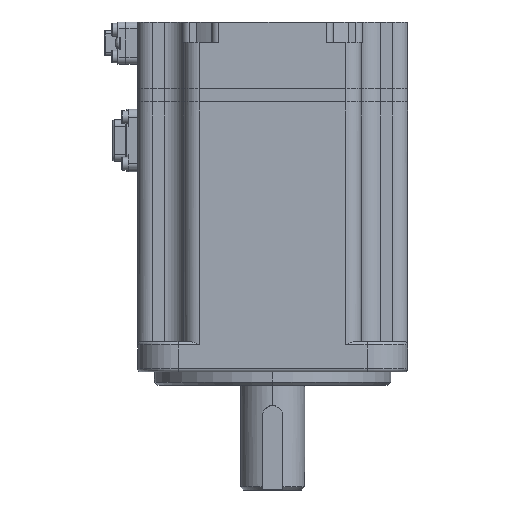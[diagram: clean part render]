
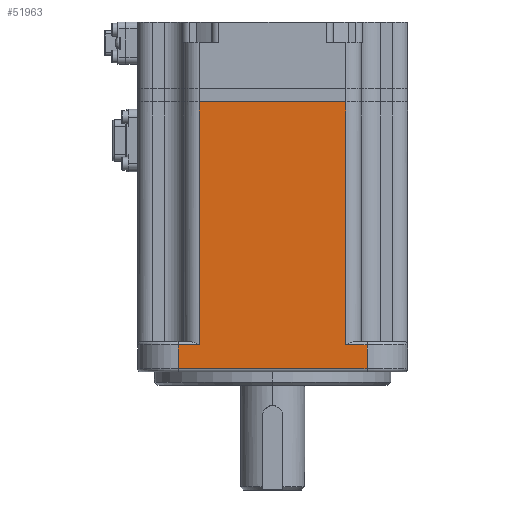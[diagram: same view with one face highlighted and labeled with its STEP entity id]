
A CAD part, left-side view. The second image highlights one B-rep face of the part: STEP entity #51963.
In plain terms, the highlighted planar face has unit normal (-1, 0, 0).
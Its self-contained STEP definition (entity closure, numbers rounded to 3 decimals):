
#1957 = CARTESIAN_POINT ( 'NONE',  ( -40., 40., 13. ) ) ;
#5502 = EDGE_CURVE ( 'NONE', #30887, #8445, #16909, .T. ) ;
#6105 = CARTESIAN_POINT ( 'NONE',  ( -40., 28., 5. ) ) ;
#6966 = CARTESIAN_POINT ( 'NONE',  ( -40., 28., 13. ) ) ;
#8255 = ORIENTED_EDGE ( 'NONE', *, *, #5502, .T. ) ;
#8445 = VERTEX_POINT ( 'NONE', #40176 ) ;
#11182 = VECTOR ( 'NONE', #56755, 1000. ) ;
#11647 = CARTESIAN_POINT ( 'NONE',  ( -40., 28., 12. ) ) ;
#11716 = CARTESIAN_POINT ( 'NONE',  ( -40., -28., 5. ) ) ;
#12856 = VERTEX_POINT ( 'NONE', #19727 ) ;
#13184 = CARTESIAN_POINT ( 'NONE',  ( -40., 40., 12. ) ) ;
#13413 = VERTEX_POINT ( 'NONE', #33914 ) ;
#16909 = LINE ( 'NONE', #11716, #11182 ) ;
#18622 = ORIENTED_EDGE ( 'NONE', *, *, #28242, .F. ) ;
#19727 = CARTESIAN_POINT ( 'NONE',  ( -40., 21.75, 12. ) ) ;
#20143 = VERTEX_POINT ( 'NONE', #21619 ) ;
#20191 = AXIS2_PLACEMENT_3D ( 'NONE', #1957, #34580, #48628 ) ;
#20270 = DIRECTION ( 'NONE',  ( 0., -1., 0. ) ) ;
#20582 = FACE_OUTER_BOUND ( 'NONE', #49922, .T. ) ;
#21036 = DIRECTION ( 'NONE',  ( 0., 0., -1. ) ) ;
#21237 = PLANE ( 'NONE',  #20191 ) ;
#21619 = CARTESIAN_POINT ( 'NONE',  ( -40., -28., 12. ) ) ;
#21914 = LINE ( 'NONE', #36935, #42681 ) ;
#25894 = EDGE_CURVE ( 'NONE', #46149, #30887, #51687, .T. ) ;
#27270 = CARTESIAN_POINT ( 'NONE',  ( -40., -28., 13. ) ) ;
#28242 = EDGE_CURVE ( 'NONE', #54615, #13413, #64260, .T. ) ;
#29334 = VECTOR ( 'NONE', #59700, 1000. ) ;
#30887 = VERTEX_POINT ( 'NONE', #6105 ) ;
#31003 = ORIENTED_EDGE ( 'NONE', *, *, #38097, .T. ) ;
#31068 = ORIENTED_EDGE ( 'NONE', *, *, #54311, .T. ) ;
#33083 = DIRECTION ( 'NONE',  ( 0., 1., 0. ) ) ;
#33459 = ORIENTED_EDGE ( 'NONE', *, *, #25894, .T. ) ;
#33914 = CARTESIAN_POINT ( 'NONE',  ( -40., -21.75, 12. ) ) ;
#34580 = DIRECTION ( 'NONE',  ( 1., 0., 0. ) ) ;
#34877 = EDGE_CURVE ( 'NONE', #51781, #12856, #21914, .T. ) ;
#36527 = ORIENTED_EDGE ( 'NONE', *, *, #42464, .T. ) ;
#36935 = CARTESIAN_POINT ( 'NONE',  ( -40., 21.75, 84. ) ) ;
#38097 = EDGE_CURVE ( 'NONE', #20143, #13413, #39416, .T. ) ;
#39281 = VECTOR ( 'NONE', #44634, 1000. ) ;
#39416 = LINE ( 'NONE', #59351, #39281 ) ;
#40176 = CARTESIAN_POINT ( 'NONE',  ( -40., -28., 5. ) ) ;
#40315 = EDGE_CURVE ( 'NONE', #51781, #54615, #51258, .T. ) ;
#42464 = EDGE_CURVE ( 'NONE', #8445, #20143, #61535, .T. ) ;
#42681 = VECTOR ( 'NONE', #56531, 1000. ) ;
#44634 = DIRECTION ( 'NONE',  ( 0., 1., 0. ) ) ;
#44776 = VECTOR ( 'NONE', #20270, 1000. ) ;
#45230 = VECTOR ( 'NONE', #33083, 1000. ) ;
#46149 = VERTEX_POINT ( 'NONE', #11647 ) ;
#46769 = CARTESIAN_POINT ( 'NONE',  ( -40., 21.75, 84. ) ) ;
#47184 = DIRECTION ( 'NONE',  ( 0., 0., 1. ) ) ;
#48628 = DIRECTION ( 'NONE',  ( 0., 1., 0. ) ) ;
#49922 = EDGE_LOOP ( 'NONE', ( #56658, #31068, #33459, #8255, #36527, #31003, #18622, #53170 ) ) ;
#51258 = LINE ( 'NONE', #61344, #44776 ) ;
#51687 = LINE ( 'NONE', #6966, #56795 ) ;
#51781 = VERTEX_POINT ( 'NONE', #46769 ) ;
#51963 = ADVANCED_FACE ( 'NONE', ( #20582 ), #21237, .F. ) ;
#52615 = CARTESIAN_POINT ( 'NONE',  ( -40., -21.75, 84. ) ) ;
#53170 = ORIENTED_EDGE ( 'NONE', *, *, #40315, .F. ) ;
#54157 = CARTESIAN_POINT ( 'NONE',  ( -40., -21.75, 84. ) ) ;
#54311 = EDGE_CURVE ( 'NONE', #12856, #46149, #57901, .T. ) ;
#54615 = VERTEX_POINT ( 'NONE', #52615 ) ;
#56531 = DIRECTION ( 'NONE',  ( 0., 0., -1. ) ) ;
#56658 = ORIENTED_EDGE ( 'NONE', *, *, #34877, .T. ) ;
#56755 = DIRECTION ( 'NONE',  ( 0., -1., 0. ) ) ;
#56795 = VECTOR ( 'NONE', #21036, 1000. ) ;
#57901 = LINE ( 'NONE', #13184, #45230 ) ;
#59351 = CARTESIAN_POINT ( 'NONE',  ( -40., 40., 12. ) ) ;
#59700 = DIRECTION ( 'NONE',  ( 0., 0., -1. ) ) ;
#61344 = CARTESIAN_POINT ( 'NONE',  ( -40., 21.75, 84. ) ) ;
#61496 = VECTOR ( 'NONE', #47184, 1000. ) ;
#61535 = LINE ( 'NONE', #27270, #61496 ) ;
#64260 = LINE ( 'NONE', #54157, #29334 ) ;
